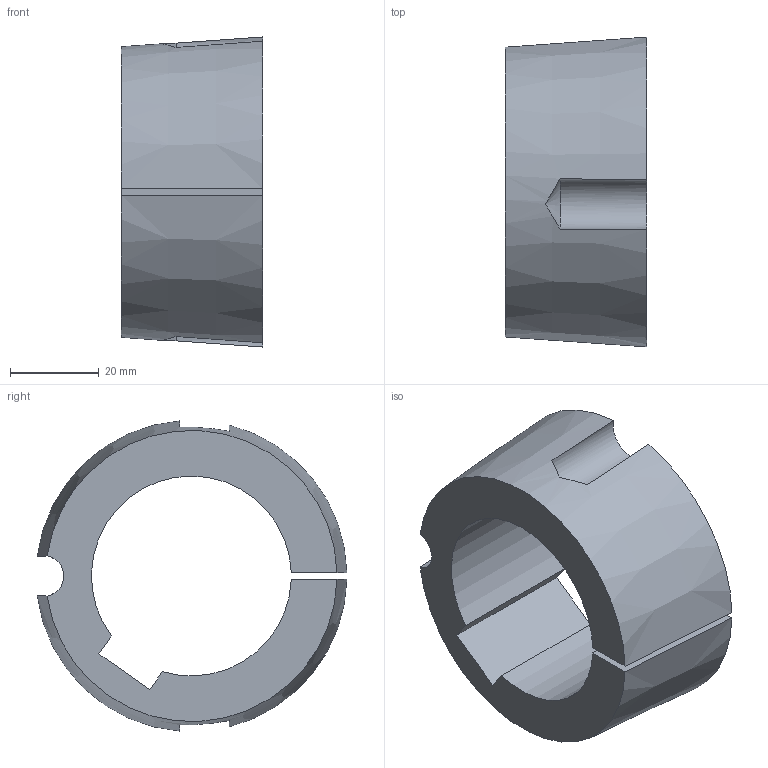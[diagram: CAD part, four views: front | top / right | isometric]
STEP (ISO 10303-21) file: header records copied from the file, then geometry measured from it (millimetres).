
FILE_DESCRIPTION( ( 'STEP AP203' ), '1' );
FILE_NAME( 'D:/export/antriebselemente/spannbuchsen_und_spannsaetze/taper-spannbuchsen_1008_bis_5050/taper-spannbuchsen_62250545Isometric_131.stp', '2018-12-11T11:11:14', ( '' ), ( '' ), ' ', 'PARTsolutions', ' ' );
FILE_SCHEMA( ( 'CONFIG_CONTROL_DESIGN' ) );
Length unit declared in the file: millimetre
Products named in the file (1): _taper-spannbuchsen_62250545
Bounding box: 31.8 x 69.72 x 69.81 mm (x, y, z)
Volume: 58201.3 mm3; surface area: 16445.6 mm2
Topology: 1 solids, 1 shells, 16 faces, 42 edges, 28 vertices
Faces by surface type: plane 7, cylinder 5, cone 4
Entity records: 618 total; most frequent: CARTESIAN_POINT 179, ORIENTED_EDGE 84, DIRECTION 82, EDGE_CURVE 42, AXIS2_PLACEMENT_3D 33, VERTEX_POINT 28, ADVANCED_FACE 16, FACE_OUTER_BOUND 16
